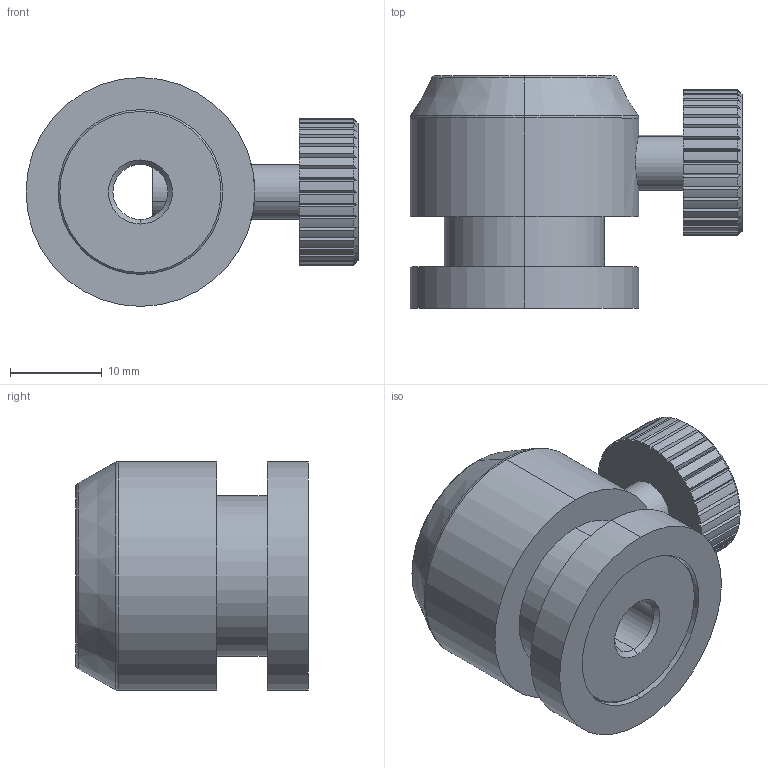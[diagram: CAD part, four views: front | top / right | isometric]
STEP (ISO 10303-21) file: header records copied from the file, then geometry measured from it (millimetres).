
FILE_DESCRIPTION (( 'STEP AP203' ), '1' );
FILE_NAME ('PHF-1.STEP', '2016-11-29T09:21:05', ( '' ), ( '' ), 'SwSTEP 2.0', 'SolidWorks 2012', '' );
FILE_SCHEMA (( 'CONFIG_CONTROL_DESIGN' ));
Length unit declared in the file: millimetre
Products named in the file (1): PHF-1
Bounding box: 36.27 x 25.4 x 25 mm (x, y, z)
Volume: 9570.8 mm3; surface area: 6492.5 mm2
Topology: 4 solids, 4 shells, 182 faces, 487 edges, 319 vertices
Faces by surface type: plane 96, cylinder 64, cone 14, torus 4, sphere 4
Entity records: 5929 total; most frequent: CARTESIAN_POINT 1327, ORIENTED_EDGE 964, DIRECTION 926, EDGE_CURVE 482, AXIS2_PLACEMENT_3D 337, VERTEX_POINT 316, LINE 252, VECTOR 252
